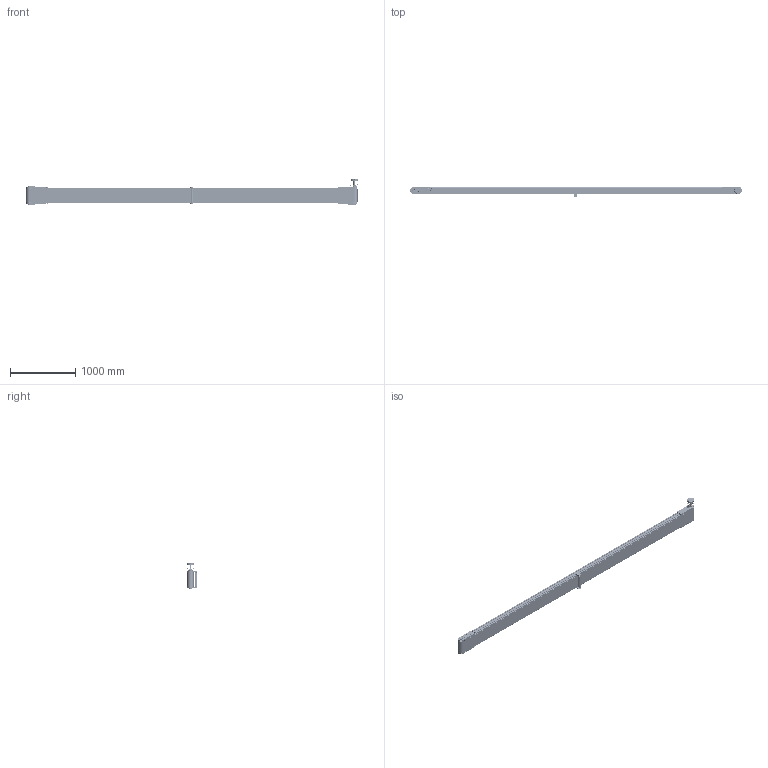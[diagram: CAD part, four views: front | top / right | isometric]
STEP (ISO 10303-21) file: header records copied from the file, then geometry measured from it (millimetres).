
FILE_DESCRIPTION (( 'STEP AP203' ), '1' );
FILE_NAME ('NASTRO_RETTILINEO_TAPPETO.step', '2026-04-21T08:34:58', ( 'Utente Windows' ), ( '' ), 'SwSTEP 2.0', 'SolidWorks 2024', '' );
FILE_SCHEMA (( 'CONFIG_CONTROL_DESIGN' ));
Length unit declared in the file: millimetre
Products named in the file (51): 084.302.000 DADI ALUSIC 13x13-1_084.302.004; 084.812.002; VITI TE UNI 5739_M8x12 UNI 5739; 084.302.000 DADI ALUSIC 13x13-1_084.302.007; 084.802.014; 084.810.003; 084.802.060_Default<A macchina>; VITI TSEI UNI 5933_M4x12 UNI 5933; 084.802.013-2; 084.802.017_084.802.017; BLOCCO_PERNO_95_RINVIO; 084.802.067_Default<A macchina>; VITI TSEI UNI 5933_M5x12 UNI 5933; 084.808.003_084.808.003; BLOCCO_TRAINO_95_STANDARD_CON TENDINASTRO E CARTER; 084.802.068; BLOCCO_BRACCIO_CH05P_CH05P; RULLO_REGGITAPPETO; BLOCCO_RINVIO_95_STANDARD_CON TENDINASTRO E CARTER; BLOCCO_TRAINO_95_STANDARD_49_DX_CON TENDINASTRO E SENZA CARTER; VITI TCEI UNI 5931_M4x25 UNI 5931; 084.302.060; TAPPETO_STANDARD; 084.802.034_084.802.034; 084.808.013; 084.808.002_084.808.002; 084.802.028; 084.803.003; VITE_DADO_M5X12; 084.802.071; VITI TE UNI 5739_M6x12 UNI 5739; RONDELLE FASCIA LARGA UNI 6593_8.4x32 UNI 6593; RULLO_95_Default<A macchina>; BLOCCO_REGGITAPPETO; 084.303.001; VITE_RONDELLA_M8X20; 084.812.003; 084.803.017; 30UNI7435; VITI TCEI UNI 5931_M6x12 UNI 5931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
Assembly tree (162 placements, depth 4):
  NASTRO_RETTILINEO_TAPPETO
    TAPPETO_STANDARD
    TELAIO_95_STANDARD_Default<A macchina>
    LAMIERA_STANDARD  x3
    RULLO_95_Default<A macchina>  x2
    BLOCCO_PERNO_95_49
      084.812.002
      084.810.003
      CHIAVETTE_A 8x7x70 UNI 6604-69
      CHIAVETTE_A 8x7x20 UNI 6604-69
      RONDELLE FASCIA LARGA UNI 6593_8.4x32 UNI 6593
      VITI TE UNI 5739_M8x16 UNI 5739
      25UNI7435
      30UNI7435
    BLOCCO_TRAINO_95_STANDARD_49_DX_CON TENDINASTRO E SENZA CARTER
      084.808.003_084.808.003
      084.302.060  x2
      084.802.034_084.802.034
      084.301.000 VITI ALUSIC_084.301.003  x6
      084.802.067_Default<A macchina>
      VITI TCEI UNI 5931_M4x25 UNI 5931  x2
      BLOCCO_BRACCIO_CH05P_CH05P
        084.808.013
        084.802.062
        084.802.060_Default<A macchina>
        VITI TE UNI 5739_M8x12 UNI 5739  x4
        VITI TE UNI 5739_M6x12 UNI 5739  x4
        084.803.017
        VITI TCEI UNI 5931_M6x12 UNI 5931  x4
    BLOCCO_PERNO_95_RINVIO  x3
      084.812.003
      084.810.003
      30UNI7435
    BLOCCO_TRAINO_95_STANDARD_CON TENDINASTRO E CARTER
      084.808.002_084.808.002
      084.302.060  x2
      084.802.019_084.802.019
      084.301.000 VITI ALUSIC_084.301.003  x6
      VITI TCEI UNI 5931_M4x25 UNI 5931  x2
      084.802.071
      084.802.068
      VITI TSEI UNI 5933_M4x12 UNI 5933  x2
    BLOCCO_RINVIO_95_STANDARD_CON TENDINASTRO E CARTER  x2
      084.808.002_084.808.002
      084.803.003
      084.302.060
      084.802.019_084.802.019
      VITI TSEI UNI 5933_M4x12 UNI 5933
      084.302.000 DADI ALUSIC 13x13-1_084.302.004
      084.301.000 VITI ALUSIC_084.301.003
      084.802.071
    VITE_RONDELLA_M8X20  x33
      084.303.001
      084.301.000 VITI ALUSIC_084.301.003
    VITE_DADO_M5X12  x24
      084.302.000 DADI ALUSIC 13x13-1_084.302.007
      VITI TSEI UNI 5933_M5x12 UNI 5933
    BLOCCO_REGGITAPPETO  x2
      084.301.000 VITI ALUSIC_084.301.003
      084.302.000 DADI ALUSIC 13x13-1_084.302.004
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Bounding box: 5106.5 x 163.5 x 404 mm (x, y, z)
Volume: 21216827.3 mm3; surface area: 17476184.7 mm2
Topology: 283 solids, 288 shells, 9800 faces, 25152 edges, 16133 vertices
Faces by surface type: plane 5247, cylinder 2481, cone 853, bspline 612, torus 543, sphere 64
Entity records: 179696 total; most frequent: CARTESIAN_POINT 52123, ORIENTED_EDGE 25962, DIRECTION 23729, EDGE_CURVE 12981, VERTEX_POINT 8400, AXIS2_PLACEMENT_3D 8019, LINE 7691, VECTOR 7691
